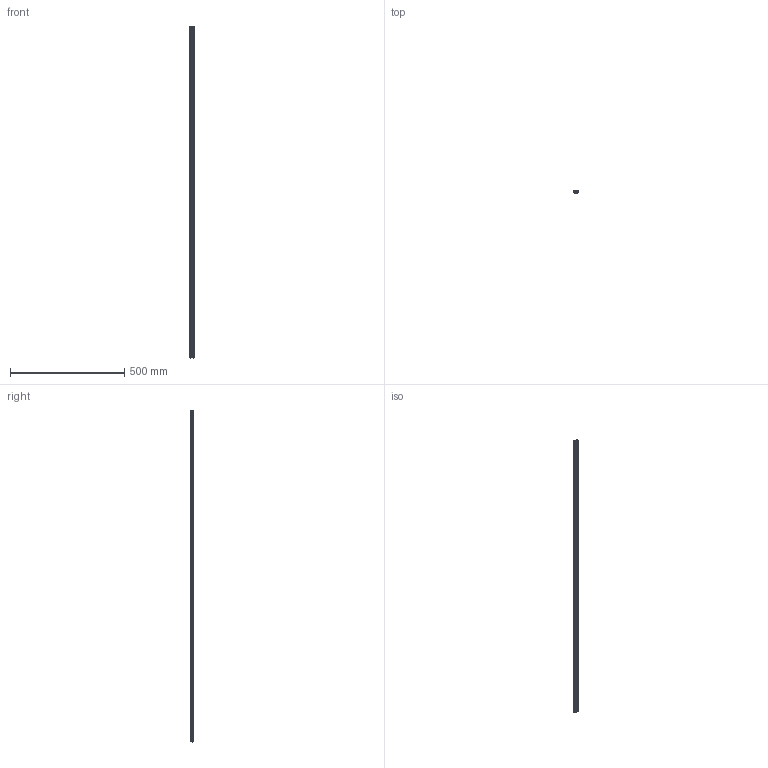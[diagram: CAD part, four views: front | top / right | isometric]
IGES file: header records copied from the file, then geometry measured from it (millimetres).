
Start section: SolidWorks IGES file using analytic representation for surfaces
Global section: file name: C:\Users\JoãoSantos\Desktop\02_3D.2D\01_2020\02_Linear\13_Limit\02_Limit_Flat\Componentes\Limit\LIMIT_FLAT_1455.IGS; native system: SolidWorks 2020; preprocessor: SolidWorks 2020; author: JoãoSantos; date: 201023.152811; units: millimetre
Bounding box: 20.25 x 10.45 x 1455.1 mm (x, y, z)
Surface area: 202149.1 mm2 (no closed solid volume)
Topology: 0 solids, 0 shells, 274 faces, 2328 edges, 2320 vertices
Faces by surface type: bspline 146, revolution 128
